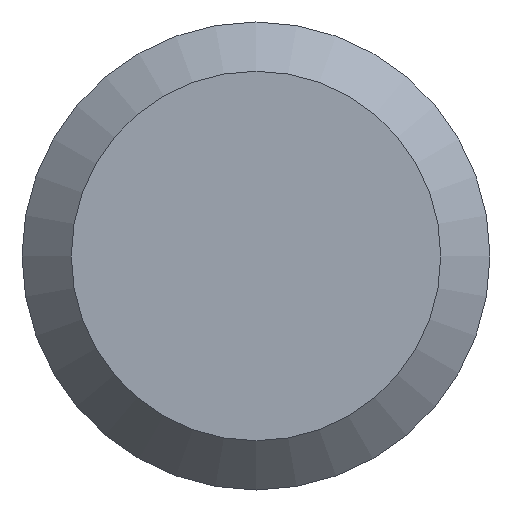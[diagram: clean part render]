
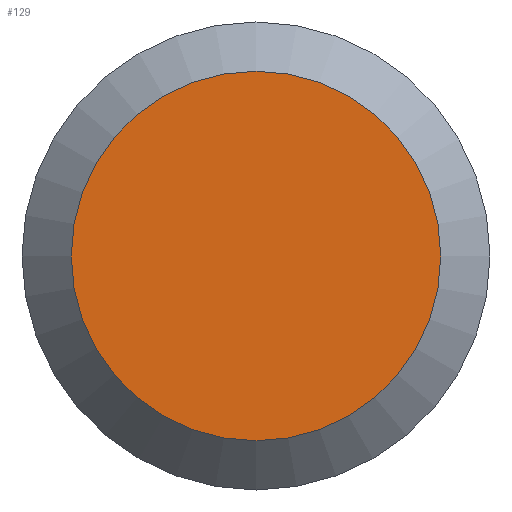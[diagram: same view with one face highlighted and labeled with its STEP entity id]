
A CAD part, left-side view. The second image highlights one B-rep face of the part: STEP entity #129.
In plain terms, the highlighted planar face has unit normal (-1, 0, 0).
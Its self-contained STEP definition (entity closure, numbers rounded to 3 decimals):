
#129=ADVANCED_FACE('',(#166),#168,.F.);
#166=FACE_BOUND('',#167,.T.);
#167=EDGE_LOOP('',(#198));
#168=PLANE('',#169);
#169=AXIS2_PLACEMENT_3D('',#170,#171,#172);
#170=CARTESIAN_POINT('',(0.,0.,0.));
#171=DIRECTION('',(1.,0.,0.));
#172=DIRECTION('',(0.,0.,-1.));
#198=ORIENTED_EDGE('',*,*,#208,.F.);
#208=EDGE_CURVE('',#219,#219,#220,.T.);
#219=VERTEX_POINT('',#246);
#220=CIRCLE('',#247,3.75);
#246=CARTESIAN_POINT('',(0.,0.,-3.75));
#247=AXIS2_PLACEMENT_3D('',#248,#249,#250);
#248=CARTESIAN_POINT('',(0.,0.,0.));
#249=DIRECTION('',(1.,0.,0.));
#250=DIRECTION('',(0.,0.,-1.));
